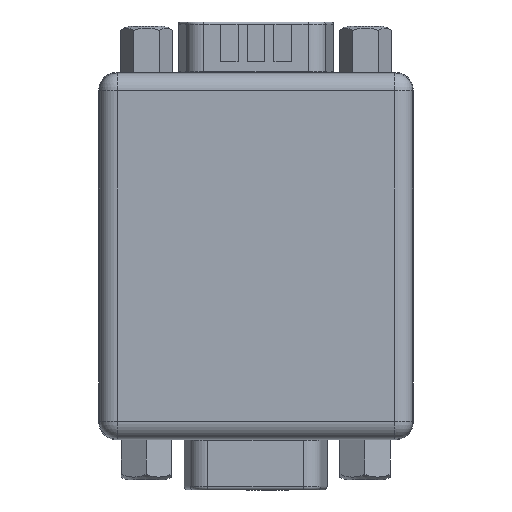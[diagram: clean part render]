
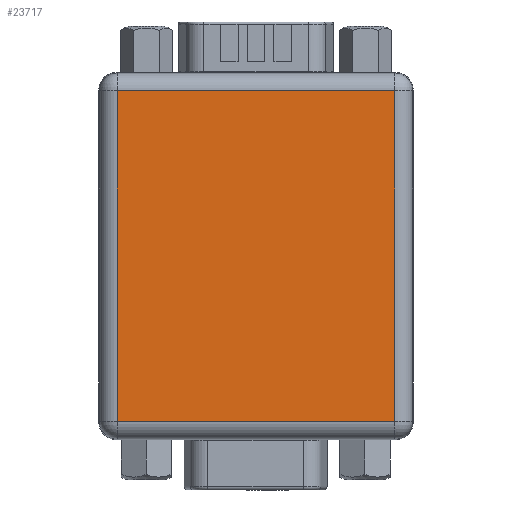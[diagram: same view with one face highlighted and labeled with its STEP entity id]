
A CAD part, front view. The second image highlights one B-rep face of the part: STEP entity #23717.
In plain terms, the highlighted planar face has unit normal (0, -1, 0).
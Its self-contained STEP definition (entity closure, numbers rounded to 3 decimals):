
#672=PLANE('',#25080);
#1603=LINE('',#33210,#4278);
#1609=LINE('',#33239,#4284);
#1611=LINE('',#33242,#4286);
#1613=LINE('',#33245,#4288);
#4278=VECTOR('',#26940,10.);
#4284=VECTOR('',#26972,10.);
#4286=VECTOR('',#26976,10.);
#4288=VECTOR('',#26980,10.);
#7281=FACE_OUTER_BOUND('',#8598,.T.);
#8598=EDGE_LOOP('',(#16609,#16610,#16611,#16612));
#10590=VERTEX_POINT('',#33184);
#10595=VERTEX_POINT('',#33197);
#10600=VERTEX_POINT('',#33213);
#10605=VERTEX_POINT('',#33226);
#12943=EDGE_CURVE('',#10590,#10595,#1603,.T.);
#12957=EDGE_CURVE('',#10595,#10605,#1609,.T.);
#12959=EDGE_CURVE('',#10605,#10600,#1611,.T.);
#12961=EDGE_CURVE('',#10600,#10590,#1613,.T.);
#16609=ORIENTED_EDGE('',*,*,#12943,.F.);
#16610=ORIENTED_EDGE('',*,*,#12961,.F.);
#16611=ORIENTED_EDGE('',*,*,#12959,.F.);
#16612=ORIENTED_EDGE('',*,*,#12957,.F.);
#23717=ADVANCED_FACE('',(#7281),#672,.F.);
#25080=AXIS2_PLACEMENT_3D('',#33253,#26991,#26992);
#26940=DIRECTION('',(1.,0.,0.));
#26972=DIRECTION('',(0.,0.,-1.));
#26976=DIRECTION('',(-1.,0.,0.));
#26980=DIRECTION('',(0.,0.,1.));
#26991=DIRECTION('center_axis',(0.,1.,0.));
#26992=DIRECTION('ref_axis',(1.,0.,0.));
#33184=CARTESIAN_POINT('',(-15.859,-6.35,18.874));
#33197=CARTESIAN_POINT('',(15.859,-6.35,18.874));
#33210=CARTESIAN_POINT('',(-8.968,-6.35,18.874));
#33213=CARTESIAN_POINT('',(-15.859,-6.35,-18.874));
#33226=CARTESIAN_POINT('',(15.859,-6.35,-18.874));
#33239=CARTESIAN_POINT('',(15.859,-6.35,10.475));
#33242=CARTESIAN_POINT('',(8.968,-6.35,-18.874));
#33245=CARTESIAN_POINT('',(-15.859,-6.35,-10.475));
#33253=CARTESIAN_POINT('Origin',(0.,-6.35,0.));
